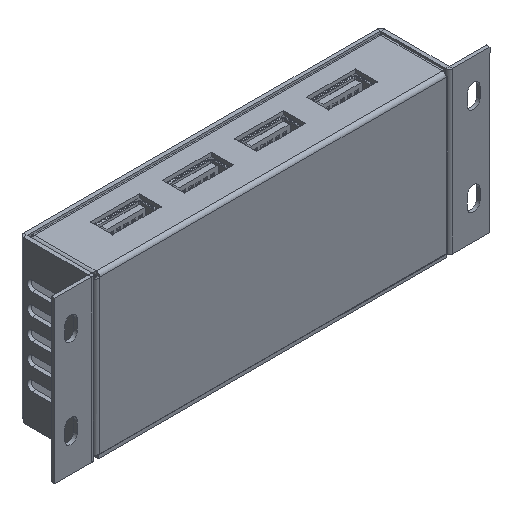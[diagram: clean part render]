
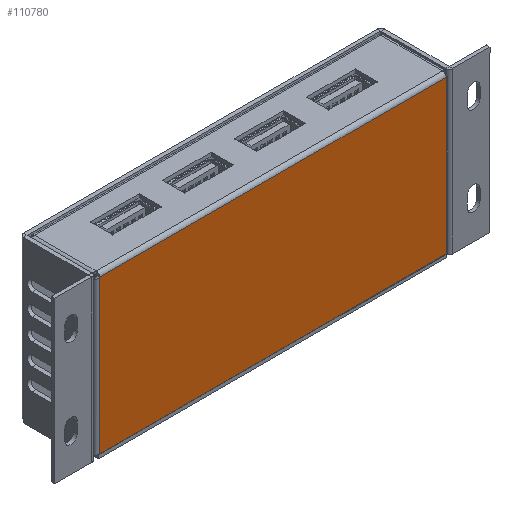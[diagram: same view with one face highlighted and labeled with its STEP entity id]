
A CAD part, isometric view. The second image highlights one B-rep face of the part: STEP entity #110780.
In plain terms, the highlighted planar face has unit normal (0, -1, 0).
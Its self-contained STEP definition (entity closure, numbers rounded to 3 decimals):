
#4292=PLANE('',#118257);
#11833=FACE_OUTER_BOUND('',#17761,.T.);
#17761=EDGE_LOOP('',(#98465,#98466,#98467,#98468));
#30213=LINE('',#184017,#43409);
#30235=LINE('',#184139,#43431);
#30249=LINE('',#184214,#43445);
#30254=LINE('',#184224,#43450);
#43409=VECTOR('',#142816,10.);
#43431=VECTOR('',#142874,10.);
#43445=VECTOR('',#142926,10.);
#43450=VECTOR('',#142937,10.);
#54792=VERTEX_POINT('',#184008);
#54793=VERTEX_POINT('',#184016);
#54805=VERTEX_POINT('',#184136);
#54806=VERTEX_POINT('',#184138);
#69851=EDGE_CURVE('',#54793,#54792,#30213,.T.);
#69882=EDGE_CURVE('',#54806,#54805,#30235,.T.);
#69905=EDGE_CURVE('',#54792,#54806,#30249,.T.);
#69911=EDGE_CURVE('',#54793,#54805,#30254,.T.);
#98465=ORIENTED_EDGE('',*,*,#69882,.T.);
#98466=ORIENTED_EDGE('',*,*,#69911,.F.);
#98467=ORIENTED_EDGE('',*,*,#69851,.T.);
#98468=ORIENTED_EDGE('',*,*,#69905,.T.);
#110780=ADVANCED_FACE('',(#11833),#4292,.T.);
#118257=AXIS2_PLACEMENT_3D('',#184223,#142935,#142936);
#142816=DIRECTION('',(0.,0.,1.));
#142874=DIRECTION('',(0.,0.,-1.));
#142926=DIRECTION('',(-1.,0.,0.));
#142935=DIRECTION('center_axis',(0.,-1.,0.));
#142936=DIRECTION('ref_axis',(1.,0.,0.));
#142937=DIRECTION('',(-1.,0.,0.));
#184008=CARTESIAN_POINT('',(91.15,-5.6,8.63));
#184016=CARTESIAN_POINT('',(91.15,-5.6,-33.96));
#184017=CARTESIAN_POINT('',(91.15,-5.6,-1.765));
#184136=CARTESIAN_POINT('',(-4.98,-5.6,-33.96));
#184138=CARTESIAN_POINT('',(-4.98,-5.6,8.63));
#184139=CARTESIAN_POINT('',(-4.98,-5.6,-23.06));
#184214=CARTESIAN_POINT('',(18.548,-5.6,8.63));
#184223=CARTESIAN_POINT('Origin',(43.085,-5.6,-12.16));
#184224=CARTESIAN_POINT('',(92.16,-5.6,-33.96));
